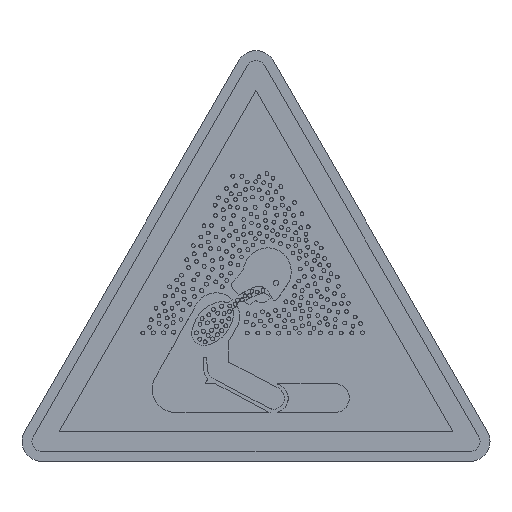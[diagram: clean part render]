
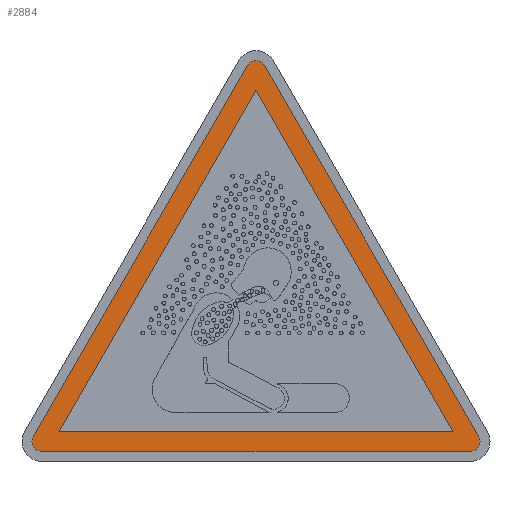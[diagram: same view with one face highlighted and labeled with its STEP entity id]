
A CAD part, top view. The second image highlights one B-rep face of the part: STEP entity #2884.
In plain terms, the highlighted planar face has unit normal (0, 0, 1).
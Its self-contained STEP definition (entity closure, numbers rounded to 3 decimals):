
#98 = CARTESIAN_POINT ( 'NONE',  ( 22.402, 2.5, 0.22 ) ) ;
#422 = CARTESIAN_POINT ( 'NONE',  ( -21.536, 1., 0.22 ) ) ;
#1065 = VERTEX_POINT ( 'NONE', #20805 ) ;
#1398 = EDGE_CURVE ( 'NONE', #9758, #25527, #21627, .T. ) ;
#1751 = CARTESIAN_POINT ( 'NONE',  ( 0., 37.301, 0.22 ) ) ;
#2588 = EDGE_CURVE ( 'NONE', #4294, #9758, #8628, .T. ) ;
#2884 = ADVANCED_FACE ( 'NONE', ( #14543, #3388 ), #8229, .T. ) ;
#3215 = ORIENTED_EDGE ( 'NONE', *, *, #26902, .F. ) ;
#3388 = FACE_BOUND ( 'NONE', #5102, .T. ) ;
#4267 = DIRECTION ( 'NONE',  ( 0., 0., 1. ) ) ;
#4294 = VERTEX_POINT ( 'NONE', #10603 ) ;
#4395 = DIRECTION ( 'NONE',  ( -0.5, 0.866, 0. ) ) ;
#5102 = EDGE_LOOP ( 'NONE', ( #7995, #3215, #10465 ) ) ;
#5220 = ORIENTED_EDGE ( 'NONE', *, *, #23831, .T. ) ;
#5262 = DIRECTION ( 'NONE',  ( -0.5, -0.866, 0. ) ) ;
#5380 = AXIS2_PLACEMENT_3D ( 'NONE', #18924, #16771, #25402 ) ;
#5840 = LINE ( 'NONE', #24739, #26000 ) ;
#6572 = VERTEX_POINT ( 'NONE', #422 ) ;
#7181 = VECTOR ( 'NONE', #17611, 1000. ) ;
#7845 = CARTESIAN_POINT ( 'NONE',  ( 19.804, 3., 0.22 ) ) ;
#7995 = ORIENTED_EDGE ( 'NONE', *, *, #2588, .F. ) ;
#8229 = PLANE ( 'NONE',  #5380 ) ;
#8628 = LINE ( 'NONE', #8775, #7181 ) ;
#8773 = VERTEX_POINT ( 'NONE', #19461 ) ;
#8775 = CARTESIAN_POINT ( 'NONE',  ( -19.804, 3., 0.22 ) ) ;
#9540 = VERTEX_POINT ( 'NONE', #19140 ) ;
#9758 = VERTEX_POINT ( 'NONE', #7845 ) ;
#10081 = CIRCLE ( 'NONE', #25932, 1. ) ;
#10325 = ORIENTED_EDGE ( 'NONE', *, *, #11662, .T. ) ;
#10465 = ORIENTED_EDGE ( 'NONE', *, *, #1398, .F. ) ;
#10603 = CARTESIAN_POINT ( 'NONE',  ( -19.804, 3., 0.22 ) ) ;
#10705 = CARTESIAN_POINT ( 'NONE',  ( -21.536, 1., 0.22 ) ) ;
#10993 = LINE ( 'NONE', #10705, #20656 ) ;
#11224 = VECTOR ( 'NONE', #4395, 1000. ) ;
#11276 = DIRECTION ( 'NONE',  ( 0., 0., 1. ) ) ;
#11662 = EDGE_CURVE ( 'NONE', #1065, #14067, #21761, .T. ) ;
#11935 = AXIS2_PLACEMENT_3D ( 'NONE', #17220, #4267, #12595 ) ;
#12595 = DIRECTION ( 'NONE',  ( 1., 0., 0. ) ) ;
#13157 = DIRECTION ( 'NONE',  ( 1., 0., 0. ) ) ;
#13706 = DIRECTION ( 'NONE',  ( 1., 0., 0. ) ) ;
#14067 = VERTEX_POINT ( 'NONE', #18147 ) ;
#14543 = FACE_OUTER_BOUND ( 'NONE', #24738, .T. ) ;
#14703 = EDGE_CURVE ( 'NONE', #18479, #1065, #10081, .T. ) ;
#14828 = CARTESIAN_POINT ( 'NONE',  ( 0.866, 39.801, 0.22 ) ) ;
#14991 = EDGE_CURVE ( 'NONE', #9540, #18479, #28033, .T. ) ;
#16771 = DIRECTION ( 'NONE',  ( 0., 0., 1. ) ) ;
#17211 = CARTESIAN_POINT ( 'NONE',  ( 19.804, 3., 0.22 ) ) ;
#17220 = CARTESIAN_POINT ( 'NONE',  ( -21.536, 2., 0.22 ) ) ;
#17362 = CIRCLE ( 'NONE', #11935, 1. ) ;
#17463 = DIRECTION ( 'NONE',  ( -0.5, 0.866, 0. ) ) ;
#17611 = DIRECTION ( 'NONE',  ( 1., 0., 0. ) ) ;
#18147 = CARTESIAN_POINT ( 'NONE',  ( -22.402, 2.5, 0.22 ) ) ;
#18479 = VERTEX_POINT ( 'NONE', #14828 ) ;
#18924 = CARTESIAN_POINT ( 'NONE',  ( 0., 39.301, 0.22 ) ) ;
#19140 = CARTESIAN_POINT ( 'NONE',  ( 22.402, 2.5, 0.22 ) ) ;
#19144 = ORIENTED_EDGE ( 'NONE', *, *, #21574, .T. ) ;
#19160 = CIRCLE ( 'NONE', #27222, 1. ) ;
#19461 = CARTESIAN_POINT ( 'NONE',  ( 21.536, 1., 0.22 ) ) ;
#19769 = DIRECTION ( 'NONE',  ( -0.5, -0.866, 0. ) ) ;
#20656 = VECTOR ( 'NONE', #13157, 1000. ) ;
#20805 = CARTESIAN_POINT ( 'NONE',  ( -0.866, 39.801, 0.22 ) ) ;
#21574 = EDGE_CURVE ( 'NONE', #6572, #8773, #10993, .T. ) ;
#21627 = LINE ( 'NONE', #17211, #11224 ) ;
#21761 = LINE ( 'NONE', #26114, #26241 ) ;
#22432 = VECTOR ( 'NONE', #17463, 1000. ) ;
#23174 = ORIENTED_EDGE ( 'NONE', *, *, #14991, .T. ) ;
#23725 = DIRECTION ( 'NONE',  ( 1., 0., 0. ) ) ;
#23831 = EDGE_CURVE ( 'NONE', #14067, #6572, #17362, .T. ) ;
#24738 = EDGE_LOOP ( 'NONE', ( #26968, #10325, #5220, #19144, #26308, #23174 ) ) ;
#24739 = CARTESIAN_POINT ( 'NONE',  ( 0., 37.301, 0.22 ) ) ;
#25402 = DIRECTION ( 'NONE',  ( 1., 0., 0. ) ) ;
#25527 = VERTEX_POINT ( 'NONE', #1751 ) ;
#25531 = CARTESIAN_POINT ( 'NONE',  ( 21.536, 2., 0.22 ) ) ;
#25677 = DIRECTION ( 'NONE',  ( 0., 0., 1. ) ) ;
#25932 = AXIS2_PLACEMENT_3D ( 'NONE', #26259, #11276, #13706 ) ;
#26000 = VECTOR ( 'NONE', #5262, 1000. ) ;
#26114 = CARTESIAN_POINT ( 'NONE',  ( -0.866, 39.801, 0.22 ) ) ;
#26241 = VECTOR ( 'NONE', #19769, 1000. ) ;
#26259 = CARTESIAN_POINT ( 'NONE',  ( 0., 39.301, 0.22 ) ) ;
#26308 = ORIENTED_EDGE ( 'NONE', *, *, #27339, .T. ) ;
#26902 = EDGE_CURVE ( 'NONE', #25527, #4294, #5840, .T. ) ;
#26968 = ORIENTED_EDGE ( 'NONE', *, *, #14703, .T. ) ;
#27222 = AXIS2_PLACEMENT_3D ( 'NONE', #25531, #25677, #23725 ) ;
#27339 = EDGE_CURVE ( 'NONE', #8773, #9540, #19160, .T. ) ;
#28033 = LINE ( 'NONE', #98, #22432 ) ;
